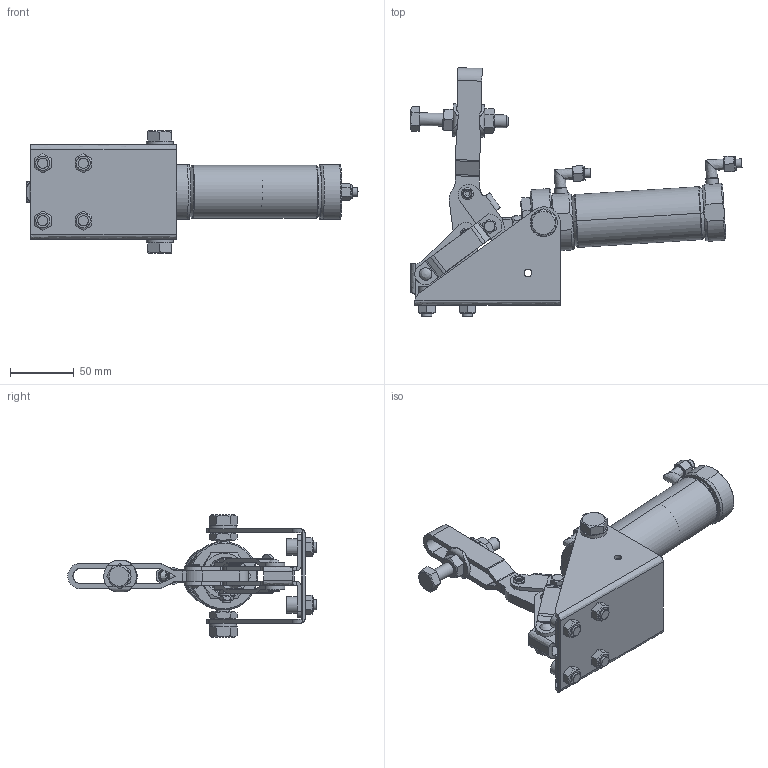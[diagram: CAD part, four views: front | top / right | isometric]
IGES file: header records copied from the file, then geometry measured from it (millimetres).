
Global section: file name: No.AC650V(ul); native system: Autodesk Inventor 2020; preprocessor: unknown; author: 高橋善宗,,11,0, ; organization: 20160225.084629; date: 20240416.091835; units: millimetre
Bounding box: 260.67 x 195.01 x 96 mm (x, y, z)
Volume: 328160.3 mm3; surface area: 174259.6 mm2
Topology: 42 solids, 42 shells, 642 faces, 1532 edges, 1018 vertices
Faces by surface type: bspline 642
